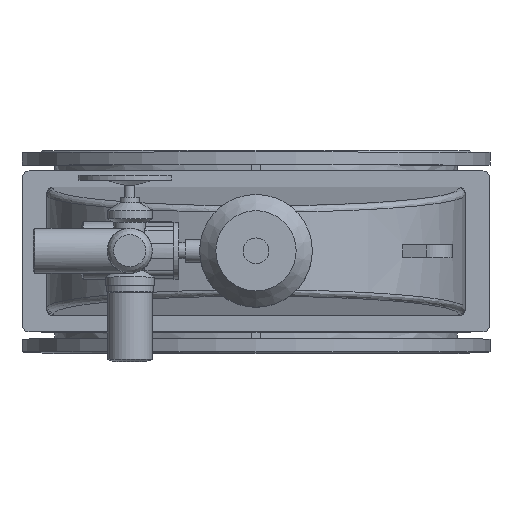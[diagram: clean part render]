
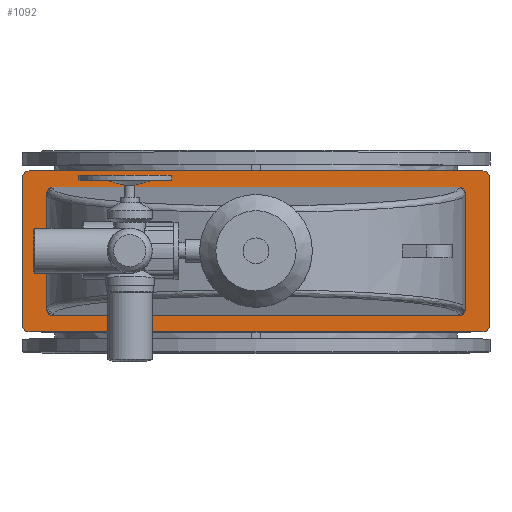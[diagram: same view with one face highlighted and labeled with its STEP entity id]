
A CAD part, top view. The second image highlights one B-rep face of the part: STEP entity #1092.
In plain terms, the highlighted planar face has unit normal (0, 0, 1).
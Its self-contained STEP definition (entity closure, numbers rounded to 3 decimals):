
#1092=ADVANCED_FACE('',(#5563,#5565),#5567,.T.);
#5563=FACE_BOUND('',#5564,.T.);
#5564=EDGE_LOOP('',(#11970,#11971,#11972,#11973,#11974,#11975,#11976,#11977));
#5565=FACE_BOUND('',#5566,.T.);
#5566=EDGE_LOOP('',(#11978,#11979,#11980,#11981,#11982,#11983,#11984,#11985));
#5567=PLANE('',#5568);
#5568=AXIS2_PLACEMENT_3D('',#5569,#5570,#5571);
#5569=CARTESIAN_POINT('',(0.,0.,1316.));
#5570=DIRECTION('',(0.,-0.,1.));
#5571=DIRECTION('',(0.,1.,0.));
#11970=ORIENTED_EDGE('',*,*,#13731,.F.);
#11971=ORIENTED_EDGE('',*,*,#13732,.T.);
#11972=ORIENTED_EDGE('',*,*,#13733,.F.);
#11973=ORIENTED_EDGE('',*,*,#13734,.T.);
#11974=ORIENTED_EDGE('',*,*,#13735,.F.);
#11975=ORIENTED_EDGE('',*,*,#13736,.T.);
#11976=ORIENTED_EDGE('',*,*,#13737,.F.);
#11977=ORIENTED_EDGE('',*,*,#13738,.T.);
#11978=ORIENTED_EDGE('',*,*,#13729,.F.);
#11979=ORIENTED_EDGE('',*,*,#13728,.F.);
#11980=ORIENTED_EDGE('',*,*,#13730,.F.);
#11981=ORIENTED_EDGE('',*,*,#13705,.F.);
#11982=ORIENTED_EDGE('',*,*,#13739,.F.);
#11983=ORIENTED_EDGE('',*,*,#13740,.F.);
#11984=ORIENTED_EDGE('',*,*,#13741,.F.);
#11985=ORIENTED_EDGE('',*,*,#13698,.F.);
#13698=EDGE_CURVE('',#14849,#14851,#14852,.T.);
#13705=EDGE_CURVE('',#14861,#14859,#14863,.T.);
#13728=EDGE_CURVE('',#14898,#14896,#14900,.T.);
#13729=EDGE_CURVE('',#14896,#14849,#14901,.F.);
#13730=EDGE_CURVE('',#14859,#14898,#14902,.T.);
#13731=EDGE_CURVE('',#14903,#14904,#14905,.F.);
#13732=EDGE_CURVE('',#14903,#14906,#14907,.T.);
#13733=EDGE_CURVE('',#14908,#14906,#14909,.F.);
#13734=EDGE_CURVE('',#14908,#14910,#14911,.T.);
#13735=EDGE_CURVE('',#14912,#14910,#14913,.F.);
#13736=EDGE_CURVE('',#14912,#14914,#14915,.T.);
#13737=EDGE_CURVE('',#14916,#14914,#14917,.F.);
#13738=EDGE_CURVE('',#14916,#14904,#14918,.T.);
#13739=EDGE_CURVE('',#14919,#14861,#14920,.F.);
#13740=EDGE_CURVE('',#14921,#14919,#14922,.T.);
#13741=EDGE_CURVE('',#14851,#14921,#14923,.T.);
#14849=VERTEX_POINT('',#18063);
#14851=VERTEX_POINT('',#18067);
#14852=LINE('',#18068,#18069);
#14859=VERTEX_POINT('',#18088);
#14861=VERTEX_POINT('',#18092);
#14863=LINE('',#18096,#18097);
#14896=VERTEX_POINT('',#18179);
#14898=VERTEX_POINT('',#18183);
#14900=LINE('',#18187,#18188);
#14901=(BOUNDED_CURVE()B_SPLINE_CURVE(3,
(#18190,#18191,#18192,#18193),
.UNSPECIFIED.,.F.,.F.)B_SPLINE_CURVE_WITH_KNOTS((4,4),
(0.,1.),
.UNSPECIFIED.)CURVE()GEOMETRIC_REPRESENTATION_ITEM()RATIONAL_B_SPLINE_CURVE((1.,
0.805,0.805,1.))REPRESENTATION_ITEM(''));
#14902=(BOUNDED_CURVE()B_SPLINE_CURVE(3,
(#18194,#18195,#18196,#18197),
.UNSPECIFIED.,.F.,.F.)B_SPLINE_CURVE_WITH_KNOTS((4,4),
(0.,1.),
.UNSPECIFIED.)CURVE()GEOMETRIC_REPRESENTATION_ITEM()RATIONAL_B_SPLINE_CURVE((1.,
0.805,0.805,1.))REPRESENTATION_ITEM(''));
#14903=VERTEX_POINT('',#18198);
#14904=VERTEX_POINT('',#18199);
#14905=CIRCLE('',#18200,20.);
#14906=VERTEX_POINT('',#18204);
#14907=LINE('',#18205,#18206);
#14908=VERTEX_POINT('',#18208);
#14909=CIRCLE('',#18209,20.);
#14910=VERTEX_POINT('',#18213);
#14911=LINE('',#18214,#18215);
#14912=VERTEX_POINT('',#18217);
#14913=CIRCLE('',#18218,20.);
#14914=VERTEX_POINT('',#18222);
#14915=LINE('',#18223,#18224);
#14916=VERTEX_POINT('',#18226);
#14917=CIRCLE('',#18227,20.);
#14918=LINE('',#18231,#18232);
#14919=VERTEX_POINT('',#18234);
#14920=(BOUNDED_CURVE()B_SPLINE_CURVE(3,
(#18235,#18236,#18237,#18238),
.UNSPECIFIED.,.F.,.F.)B_SPLINE_CURVE_WITH_KNOTS((4,4),
(0.,1.),
.UNSPECIFIED.)CURVE()GEOMETRIC_REPRESENTATION_ITEM()RATIONAL_B_SPLINE_CURVE((1.,
0.805,0.805,1.))REPRESENTATION_ITEM(''));
#14921=VERTEX_POINT('',#18239);
#14922=LINE('',#18240,#18241);
#14923=(BOUNDED_CURVE()B_SPLINE_CURVE(3,
(#18243,#18244,#18245,#18246),
.UNSPECIFIED.,.F.,.F.)B_SPLINE_CURVE_WITH_KNOTS((4,4),
(0.,1.),
.UNSPECIFIED.)CURVE()GEOMETRIC_REPRESENTATION_ITEM()RATIONAL_B_SPLINE_CURVE((1.,
0.805,0.805,1.))REPRESENTATION_ITEM(''));
#18063=CARTESIAN_POINT('',(650.,-179.924,1316.));
#18067=CARTESIAN_POINT('',(650.,179.924,1316.));
#18068=CARTESIAN_POINT('',(650.,-179.924,1316.));
#18069=VECTOR('',#18070,1.);
#18070=DIRECTION('',(0.,1.,0.));
#18088=CARTESIAN_POINT('',(-650.,-179.924,1316.));
#18092=CARTESIAN_POINT('',(-650.,179.924,1316.));
#18096=CARTESIAN_POINT('',(-650.,179.924,1316.));
#18097=VECTOR('',#18098,1.);
#18098=DIRECTION('',(0.,-1.,0.));
#18179=CARTESIAN_POINT('',(630.,-200.,1316.));
#18183=CARTESIAN_POINT('',(-630.,-200.,1316.));
#18187=CARTESIAN_POINT('',(-630.,-200.,1316.));
#18188=VECTOR('',#18189,1.);
#18189=DIRECTION('',(1.,0.,0.));
#18190=CARTESIAN_POINT('',(650.,-179.924,1316.));
#18191=CARTESIAN_POINT('',(650.,-191.684,1316.));
#18192=CARTESIAN_POINT('',(641.716,-200.,1316.));
#18193=CARTESIAN_POINT('',(630.,-200.,1316.));
#18194=CARTESIAN_POINT('',(-650.,-179.924,1316.));
#18195=CARTESIAN_POINT('',(-650.,-191.684,1316.));
#18196=CARTESIAN_POINT('',(-641.716,-200.,1316.));
#18197=CARTESIAN_POINT('',(-630.,-200.,1316.));
#18198=CARTESIAN_POINT('',(-705.,-250.,1316.));
#18199=CARTESIAN_POINT('',(-725.,-230.,1316.));
#18200=AXIS2_PLACEMENT_3D('',#18201,#18202,#18203);
#18201=CARTESIAN_POINT('',(-705.,-230.,1316.));
#18202=DIRECTION('',(0.,-0.,1.));
#18203=DIRECTION('',(-1.,0.,0.));
#18204=CARTESIAN_POINT('',(705.,-250.,1316.));
#18205=CARTESIAN_POINT('',(-705.,-250.,1316.));
#18206=VECTOR('',#18207,1.);
#18207=DIRECTION('',(1.,0.,0.));
#18208=CARTESIAN_POINT('',(725.,-230.,1316.));
#18209=AXIS2_PLACEMENT_3D('',#18210,#18211,#18212);
#18210=CARTESIAN_POINT('',(705.,-230.,1316.));
#18211=DIRECTION('',(0.,-0.,1.));
#18212=DIRECTION('',(0.,-1.,0.));
#18213=CARTESIAN_POINT('',(725.,230.,1316.));
#18214=CARTESIAN_POINT('',(725.,-230.,1316.));
#18215=VECTOR('',#18216,1.);
#18216=DIRECTION('',(0.,1.,0.));
#18217=CARTESIAN_POINT('',(705.,250.,1316.));
#18218=AXIS2_PLACEMENT_3D('',#18219,#18220,#18221);
#18219=CARTESIAN_POINT('',(705.,230.,1316.));
#18220=DIRECTION('',(0.,-0.,1.));
#18221=DIRECTION('',(1.,0.,0.));
#18222=CARTESIAN_POINT('',(-705.,250.,1316.));
#18223=CARTESIAN_POINT('',(705.,250.,1316.));
#18224=VECTOR('',#18225,1.);
#18225=DIRECTION('',(-1.,0.,0.));
#18226=CARTESIAN_POINT('',(-725.,230.,1316.));
#18227=AXIS2_PLACEMENT_3D('',#18228,#18229,#18230);
#18228=CARTESIAN_POINT('',(-705.,230.,1316.));
#18229=DIRECTION('',(0.,-0.,1.));
#18230=DIRECTION('',(0.,1.,0.));
#18231=CARTESIAN_POINT('',(-725.,230.,1316.));
#18232=VECTOR('',#18233,1.);
#18233=DIRECTION('',(0.,-1.,0.));
#18234=CARTESIAN_POINT('',(-630.,200.,1316.));
#18235=CARTESIAN_POINT('',(-650.,179.924,1316.));
#18236=CARTESIAN_POINT('',(-650.,191.684,1316.));
#18237=CARTESIAN_POINT('',(-641.716,200.,1316.));
#18238=CARTESIAN_POINT('',(-630.,200.,1316.));
#18239=CARTESIAN_POINT('',(630.,200.,1316.));
#18240=CARTESIAN_POINT('',(630.,200.,1316.));
#18241=VECTOR('',#18242,1.);
#18242=DIRECTION('',(-1.,0.,0.));
#18243=CARTESIAN_POINT('',(650.,179.924,1316.));
#18244=CARTESIAN_POINT('',(650.,191.684,1316.));
#18245=CARTESIAN_POINT('',(641.716,200.,1316.));
#18246=CARTESIAN_POINT('',(630.,200.,1316.));
